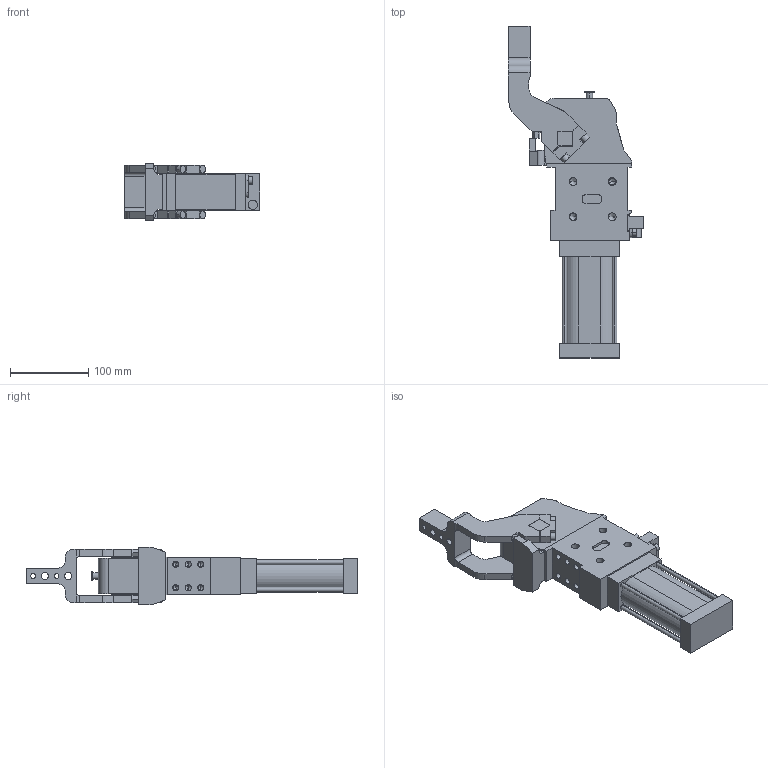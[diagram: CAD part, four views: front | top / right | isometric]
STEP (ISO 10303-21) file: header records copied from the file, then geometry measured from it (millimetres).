
FILE_DESCRIPTION (( 'STEP AP214' ), '1' );
FILE_NAME ('cpl50th3ci1g_107.STEP', '2023-01-26T10:05:46', ( '' ), ( '' ), 'SwSTEP 2.0', 'SolidWorks 2022', '' );
FILE_SCHEMA (( 'AUTOMOTIVE_DESIGN' ));
Length unit declared in the file: millimetre
Products named in the file (4): meccanica_cpl_50_tassello_esterno; blocchetto_VEP_0; leva_h3c_cpl50t; cpl50th3ci1g_107
Assembly tree (3 placements, depth 2):
  cpl50th3ci1g_107
    meccanica_cpl_50_tassello_esterno
    blocchetto_VEP_0
    leva_h3c_cpl50t
Bounding box: 173.5 x 424.5 x 74 mm (x, y, z)
Volume: 1422327.8 mm3; surface area: 172553.1 mm2
Topology: 3 solids, 3 shells, 436 faces, 1134 edges, 709 vertices
Faces by surface type: plane 228, cylinder 158, cone 50
Entity records: 14590 total; most frequent: CARTESIAN_POINT 2327, DIRECTION 2292, ORIENTED_EDGE 2176, EDGE_CURVE 1088, AXIS2_PLACEMENT_3D 772, VECTOR 748, LINE 748, VERTEX_POINT 709
